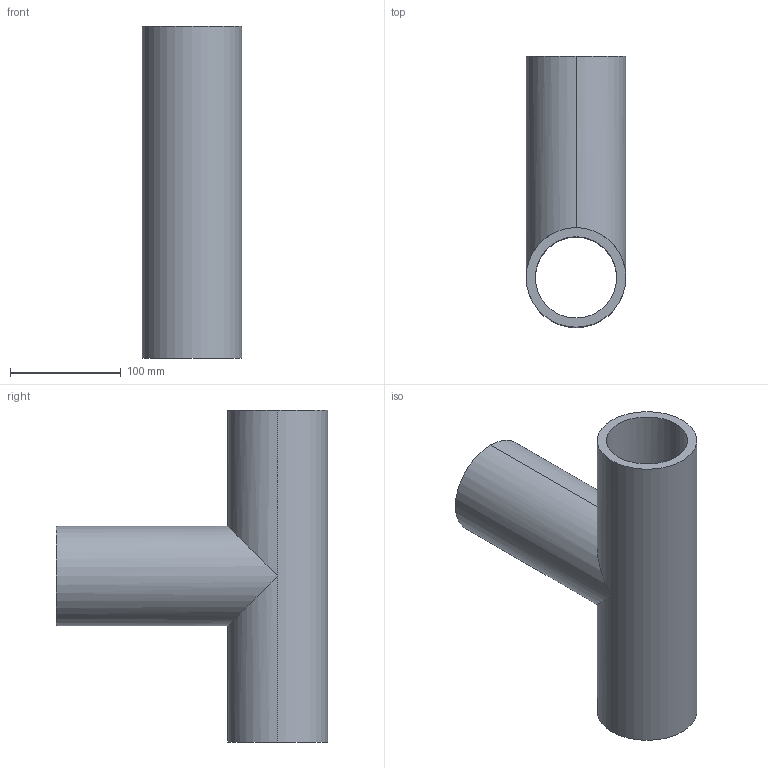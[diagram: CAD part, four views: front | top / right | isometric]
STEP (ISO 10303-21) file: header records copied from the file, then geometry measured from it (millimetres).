
FILE_DESCRIPTION (( 'STEP AP203' ), '1' );
FILE_NAME ('KP_8-90FC.step', '2011-08-08T11:38:53', ( '' ), ( '' ), 'SwSTEP 2.0', 'SolidWorks 2011', '' );
FILE_SCHEMA (( 'CONFIG_CONTROL_DESIGN' ));
Length unit declared in the file: millimetre
Products named in the file (1): KP_8-90FC
Bounding box: 90 x 245 x 300 mm (x, y, z)
Volume: 953988.4 mm3; surface area: 236084 mm2
Topology: 1 solids, 1 shells, 13 faces, 32 edges, 20 vertices
Faces by surface type: cylinder 10, plane 3
Entity records: 471 total; most frequent: CARTESIAN_POINT 90, DIRECTION 64, ORIENTED_EDGE 64, EDGE_CURVE 32, AXIS2_PLACEMENT_3D 26, VERTEX_POINT 20, EDGE_LOOP 16, FACE_OUTER_BOUND 13
